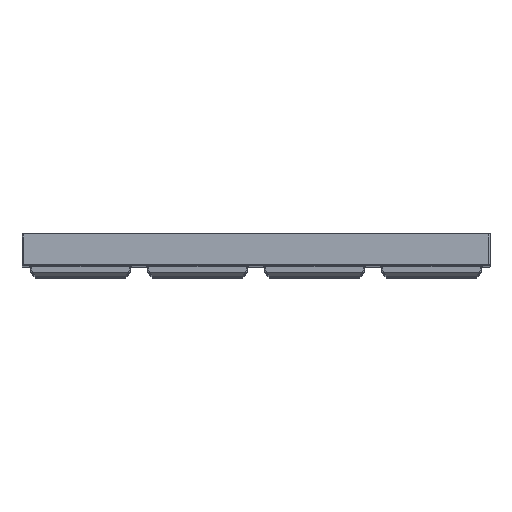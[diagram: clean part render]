
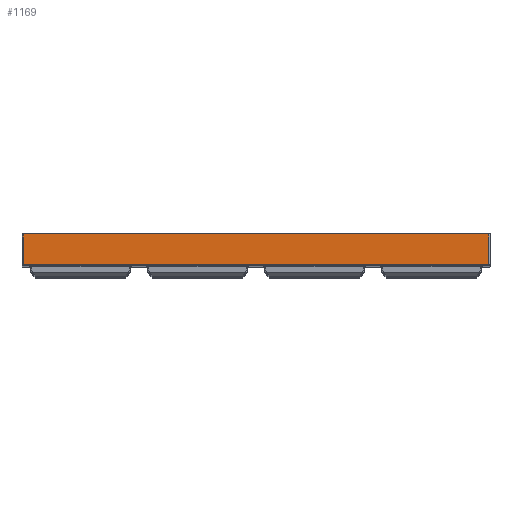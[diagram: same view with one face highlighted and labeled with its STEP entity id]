
A CAD part, top view. The second image highlights one B-rep face of the part: STEP entity #1169.
In plain terms, the highlighted planar face has unit normal (0, 0, 1).
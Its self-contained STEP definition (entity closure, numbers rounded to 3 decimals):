
#1169=ADVANCED_FACE('',(#2349),#16119,.T.);
#2349=FACE_OUTER_BOUND('',#3571,.T.);
#3571=EDGE_LOOP('',(#8719,#8720,#8721,#8722));
#8719=ORIENTED_EDGE('',*,*,#9392,.F.);
#8720=ORIENTED_EDGE('',*,*,#9401,.F.);
#8721=ORIENTED_EDGE('',*,*,#9417,.F.);
#8722=ORIENTED_EDGE('',*,*,#9424,.F.);
#9392=EDGE_CURVE('',#14584,#14585,#11787,.T.);
#9401=EDGE_CURVE('',#14591,#14584,#11791,.T.);
#9417=EDGE_CURVE('',#14600,#14591,#11799,.T.);
#9424=EDGE_CURVE('',#14585,#14600,#11804,.T.);
#11787=B_SPLINE_CURVE_WITH_KNOTS('',1,(#45188,#45189),.UNSPECIFIED.,.F.,
 .F.,(2,2),(0.,14.5),.UNSPECIFIED.);
#11791=B_SPLINE_CURVE_WITH_KNOTS('',1,(#45211,#45212),.UNSPECIFIED.,.F.,
 .F.,(2,2),(0.,219.),.UNSPECIFIED.);
#11799=B_SPLINE_CURVE_WITH_KNOTS('',1,(#45251,#45252),.UNSPECIFIED.,.F.,
 .F.,(2,2),(0.,14.5),.UNSPECIFIED.);
#11804=B_SPLINE_CURVE_WITH_KNOTS('',1,(#45267,#45268),.UNSPECIFIED.,.F.,
 .F.,(2,2),(0.,219.),.UNSPECIFIED.);
#14584=VERTEX_POINT('',#42806);
#14585=VERTEX_POINT('',#42807);
#14591=VERTEX_POINT('',#42813);
#14600=VERTEX_POINT('',#42822);
#16119=PLANE('',#17319);
#17319=AXIS2_PLACEMENT_3D('',#41793,#17562,$);
#17562=DIRECTION('',(0.,0.,1.));
#41793=CARTESIAN_POINT('',(1434.207,374.959,440.));
#42806=CARTESIAN_POINT('',(1456.107,376.409,440.));
#42807=CARTESIAN_POINT('',(1456.107,390.909,440.));
#42813=CARTESIAN_POINT('',(1675.107,376.409,440.));
#42822=CARTESIAN_POINT('',(1675.107,390.909,440.));
#45188=CARTESIAN_POINT('',(1456.107,376.409,440.));
#45189=CARTESIAN_POINT('',(1456.107,390.909,440.));
#45211=CARTESIAN_POINT('',(1675.107,376.409,440.));
#45212=CARTESIAN_POINT('',(1456.107,376.409,440.));
#45251=CARTESIAN_POINT('',(1675.107,390.909,440.));
#45252=CARTESIAN_POINT('',(1675.107,376.409,440.));
#45267=CARTESIAN_POINT('',(1456.107,390.909,440.));
#45268=CARTESIAN_POINT('',(1675.107,390.909,440.));
